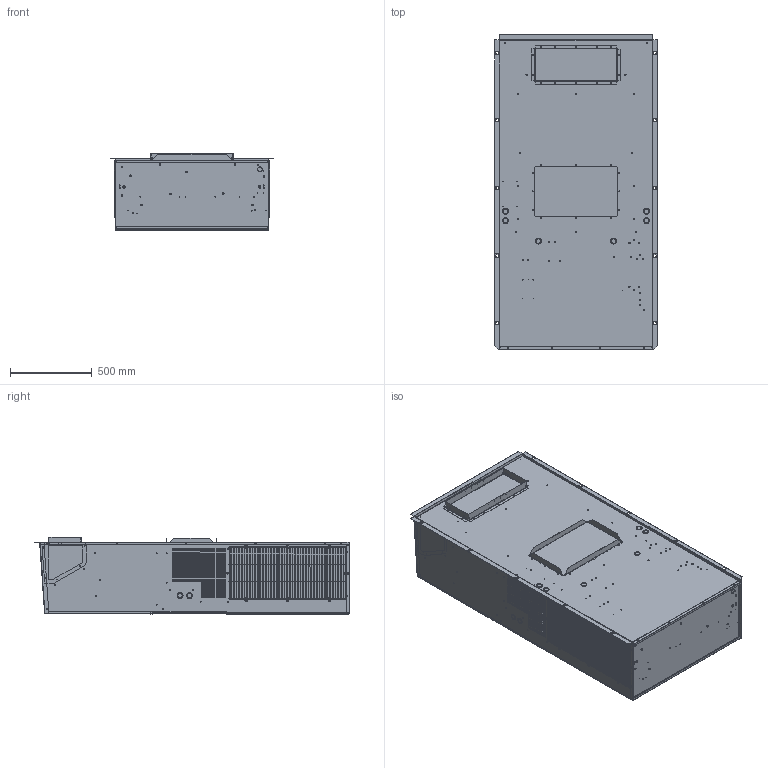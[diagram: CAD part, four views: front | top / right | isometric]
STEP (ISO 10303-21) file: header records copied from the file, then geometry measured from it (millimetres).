
FILE_DESCRIPTION (( 'STEP AP214' ), '1' );
FILE_NAME ('MAA1024A+C+1+C3.STEP', '2023-04-12T12:54:37', ( '' ), ( '' ), 'SwSTEP 2.0', 'SolidWorks 2022', '' );
FILE_SCHEMA (( 'AUTOMOTIVE_DESIGN' ));
Length unit declared in the file: inch
Products named in the file (24): COIL GUARD, AVHA24-HIGH PART 2-36H-24H; SMM10006X; SMM23005X_SMM23005X; SMM23054X_SMM23037X; SMM20008X; COIL GUARD-2, AVHA24-HIGH PART 1; 92352; BLOCK OFF, MAA1024H-C-A3^MA 1024; 81778; SMM13068X_SMM13068X; SMM22002X; MAA1024A+C+1+C3; SMM12006X; COIL GUARD, AVHA24-HIGH PART 3-36H-24H; SMM12008X_SMM12008X-IN; COIL GUARD-2, AVHA24-HIGH PART 2; SMM23005X; SMM13066X_SMM13066X; COIL GUARD-2, AVHA24-HIGH PART 3; SMM12008X; 93252BODY; SMM16066X; SMM22002X_SMM22002X; SMM13004X
Assembly tree (39 placements, depth 3):
  MAA1024A+C+1+C3
    SMM10006X
    SMM12006X  x2
    SMM12008X_SMM12008X-IN
      SMM12008X
    SMM13004X
    SMM13066X_SMM13066X
    SMM13068X_SMM13068X
    SMM16066X
    SMM20008X
    SMM22002X_SMM22002X
      SMM22002X
    SMM23005X_SMM23005X
      SMM23005X
    SMM23054X_SMM23037X
    81778  x2
      COIL GUARD-2, AVHA24-HIGH PART 1
      COIL GUARD-2, AVHA24-HIGH PART 2
      COIL GUARD-2, AVHA24-HIGH PART 3
    92352
      93252BODY
      COIL GUARD, AVHA24-HIGH PART 2-36H-24H  x4
      COIL GUARD, AVHA24-HIGH PART 3-36H-24H  x6
    BLOCK OFF, MAA1024H-C-A3^MA 1024
Bounding box: 995.91 x 1925.85 x 472.92 mm (x, y, z)
Volume: 724990263 mm3; surface area: 17399429.1 mm2
Topology: 275 solids, 275 shells, 4854 faces, 12319 edges, 7991 vertices
Faces by surface type: plane 2895, cylinder 1675, torus 152, bspline 120, cone 8, sphere 4
Entity records: 145428 total; most frequent: CARTESIAN_POINT 27734, ORIENTED_EDGE 22638, DIRECTION 22324, EDGE_CURVE 11319, VECTOR 7860, LINE 7860, VERTEX_POINT 7347, AXIS2_PLACEMENT_3D 7232
